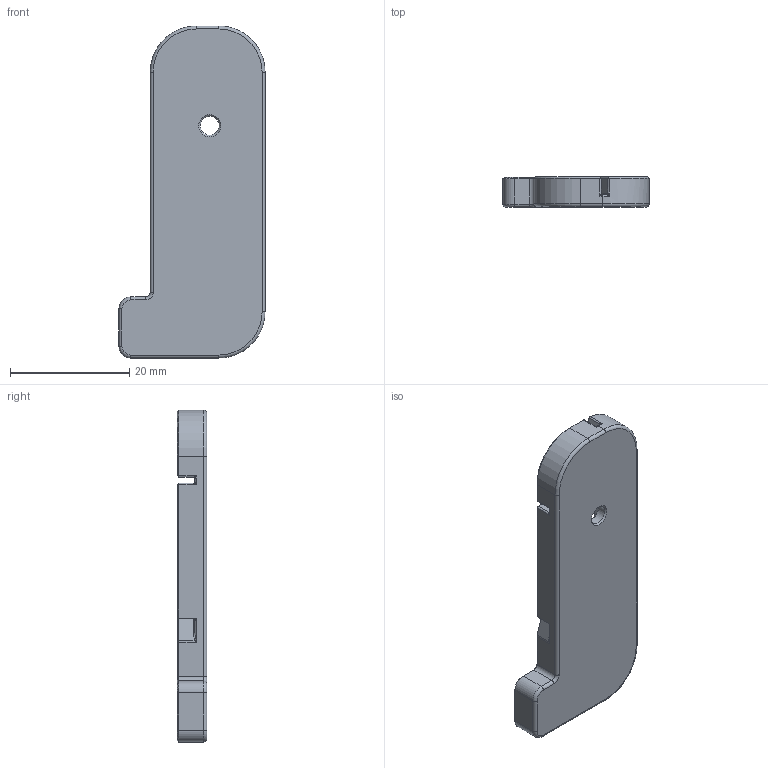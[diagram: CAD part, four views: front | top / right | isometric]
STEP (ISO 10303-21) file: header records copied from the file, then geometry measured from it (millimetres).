
FILE_DESCRIPTION(/* description */ (''),/* implementation_level */ '2;1');
FILE_NAME(/* name */ '/var/folders/q3/90_s8p4j77vgml143qxzs9nh0000gn/T/com.autodesk.mas.fusion360/Neutron/2cab06c4-abc2-48a5-8783-03b9be2983c6.stp',/* time_stamp */ '2019-04-26T13:11:20-04:00',/* author */ ('suzuki450ltr'),/* organization */ (''),/* preprocessor_version */ 'ST-DEVELOPER v18',/* originating_system */ 'Autodesk Translation Framework v8.2.0.1029',/* authorisation */ '');
FILE_SCHEMA (('AUTOMOTIVE_DESIGN { 1 0 10303 214 3 1 1 }'));
Length unit declared in the file: millimetre
Products named in the file (1): Ejector Moddification Jig
Bounding box: 24.55 x 5 x 55.75 mm (x, y, z)
Volume: 4188 mm3; surface area: 3437.5 mm2
Topology: 1 solids, 1 shells, 212 faces, 491 edges, 259 vertices
Faces by surface type: cylinder 70, plane 70, cone 35, torus 26, bspline 11
Full cylindrical faces by diameter (mm): 3.175 x1, 5.8 x1
Entity records: 5978 total; most frequent: CARTESIAN_POINT 1269, DIRECTION 1046, ORIENTED_EDGE 932, EDGE_CURVE 466, AXIS2_PLACEMENT_3D 390, LINE 266, VECTOR 266, VERTEX_POINT 259
